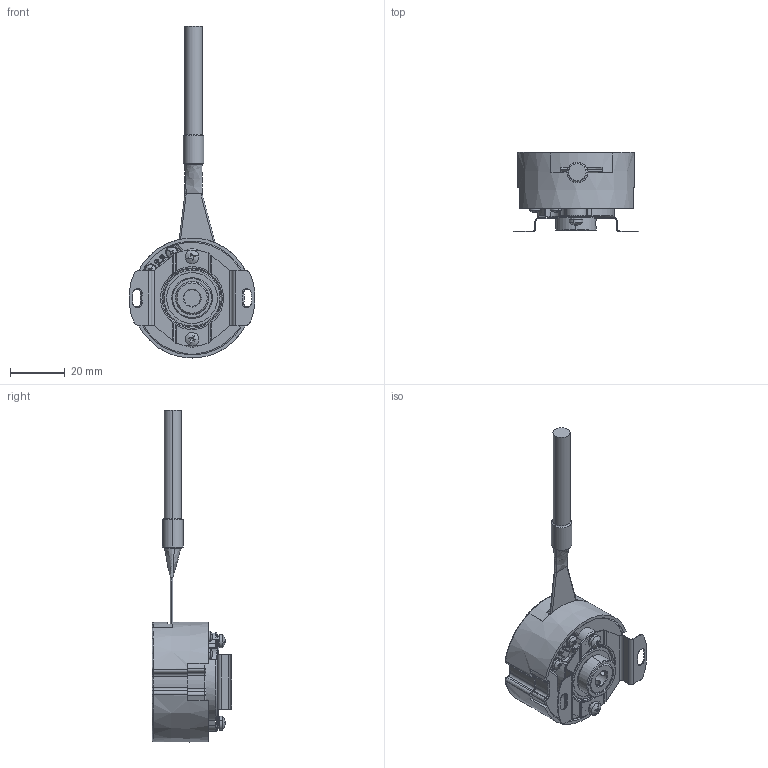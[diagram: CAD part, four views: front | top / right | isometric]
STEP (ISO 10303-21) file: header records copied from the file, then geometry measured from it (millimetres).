
FILE_DESCRIPTION (( 'STEP AP203' ), '1' );
FILE_NAME ('SRO42-整体式光电编码器 直轴.STEP', '2022-04-13T06:23:12', ( '' ), ( '' ), 'SwSTEP 2.0', 'SolidWorks 2016', '' );
FILE_SCHEMA (( 'CONFIG_CONTROL_DESIGN' ));
Length unit declared in the file: millimetre
Products named in the file (1): SRO42-整体式光电编码器 直轴
Bounding box: 45.93 x 29.15 x 121.16 mm (x, y, z)
Surface area: 14785.8 mm2 (no closed solid volume)
Topology: 0 solids, 29 shells, 511 faces, 1670 edges, 1161 vertices
Faces by surface type: plane 179, cylinder 170, bspline 139, cone 21, torus 2
Entity records: 24118 total; most frequent: CARTESIAN_POINT 10799, ORIENTED_EDGE 2674, DIRECTION 2478, EDGE_CURVE 1666, VERTEX_POINT 1161, AXIS2_PLACEMENT_3D 878, VECTOR 722, LINE 722
